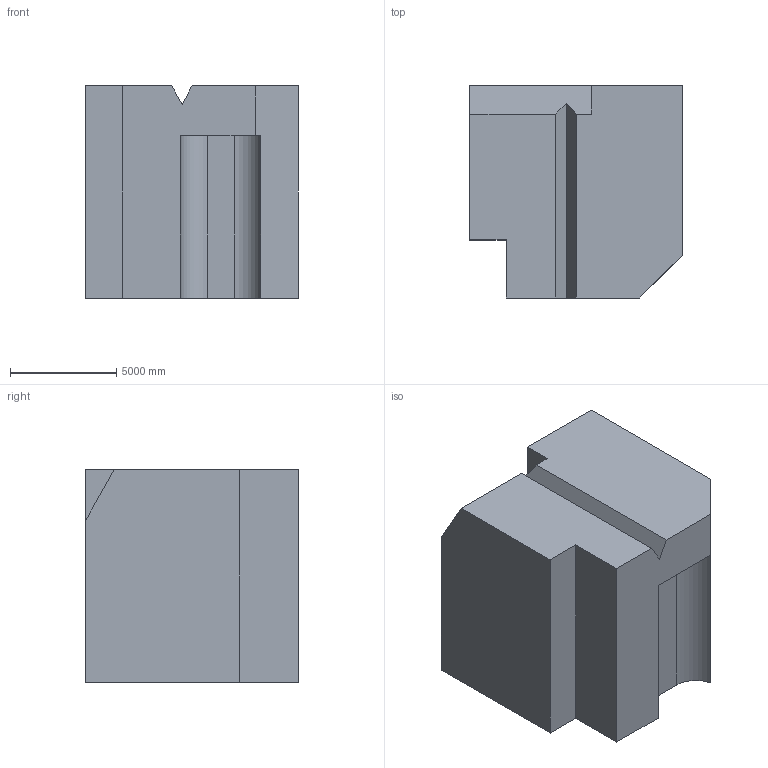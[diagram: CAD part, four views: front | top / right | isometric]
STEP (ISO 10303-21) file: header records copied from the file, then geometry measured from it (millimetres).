
FILE_DESCRIPTION (( 'STEP AP203' ), '1' );
FILE_NAME ('288.STEP', '2022-09-07T12:38:27', ( 'user' ), ( '' ), 'SwSTEP 2.0', 'SolidWorks 2021', '' );
FILE_SCHEMA (( 'CONFIG_CONTROL_DESIGN' ));
Length unit declared in the file: centimetre
Products named in the file (1): 288
Bounding box: 10000 x 10000 x 10000 mm (x, y, z)
Volume: 888066416229.4 mm3; surface area: 586239201.5 mm2
Topology: 1 solids, 1 shells, 18 faces, 48 edges, 32 vertices
Faces by surface type: plane 16, cylinder 2
Entity records: 633 total; most frequent: CARTESIAN_POINT 99, ORIENTED_EDGE 96, DIRECTION 90, EDGE_CURVE 48, VECTOR 44, LINE 44, VERTEX_POINT 32, AXIS2_PLACEMENT_3D 23
